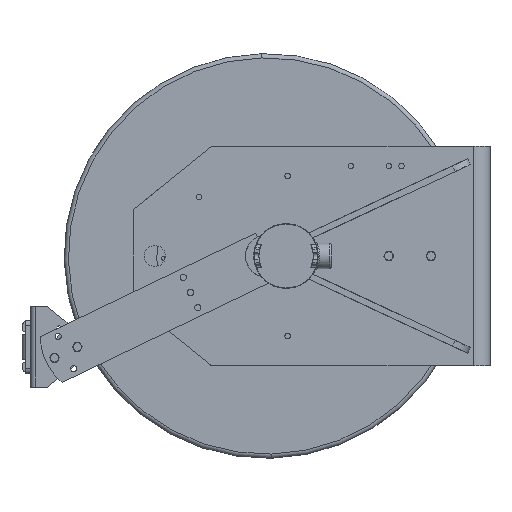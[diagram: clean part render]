
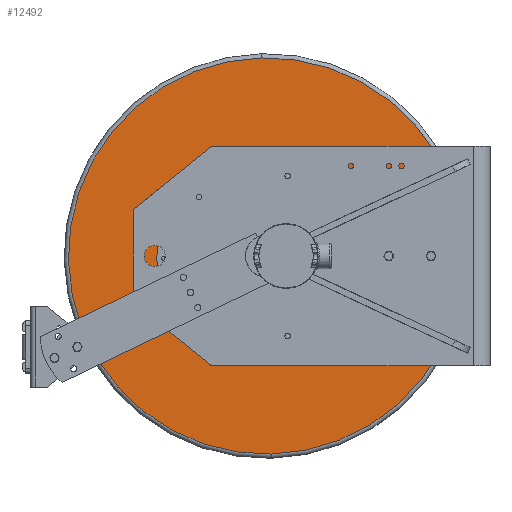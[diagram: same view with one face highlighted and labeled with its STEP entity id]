
A CAD part, left-side view. The second image highlights one B-rep face of the part: STEP entity #12492.
In plain terms, the highlighted planar face has unit normal (-1, 0, 0) as drawn and (0, 0, -1) by its records, which use the part's own axes.
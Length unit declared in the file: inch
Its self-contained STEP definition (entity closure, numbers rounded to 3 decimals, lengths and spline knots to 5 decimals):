
#212 = EDGE_CURVE ( 'NONE', #6765, #1109, #10280, .T. ) ;
#629 = CIRCLE ( 'NONE', #11423, 6.51 ) ;
#1109 = VERTEX_POINT ( 'NONE', #2480 ) ;
#1264 = ORIENTED_EDGE ( 'NONE', *, *, #15155, .F. ) ;
#1458 = AXIS2_PLACEMENT_3D ( 'NONE', #8322, #22707, #10398 ) ;
#1703 = PLANE ( 'NONE',  #3652 ) ;
#2298 = FACE_OUTER_BOUND ( 'NONE', #15855, .T. ) ;
#2480 = CARTESIAN_POINT ( 'NONE',  ( -11.75, 0., 3. ) ) ;
#3652 = AXIS2_PLACEMENT_3D ( 'NONE', #16054, #20159, #7859 ) ;
#4203 = EDGE_CURVE ( 'NONE', #1109, #6765, #25940, .T. ) ;
#4646 = CARTESIAN_POINT ( 'NONE',  ( -6.51, 0., 3. ) ) ;
#5282 = DIRECTION ( 'NONE',  ( 0., 0., -1. ) ) ;
#6750 = CARTESIAN_POINT ( 'NONE',  ( 11.75, 0., 3. ) ) ;
#6765 = VERTEX_POINT ( 'NONE', #6750 ) ;
#7157 = EDGE_LOOP ( 'NONE', ( #1264, #23613 ) ) ;
#7718 = AXIS2_PLACEMENT_3D ( 'NONE', #11300, #25708, #13361 ) ;
#7859 = DIRECTION ( 'NONE',  ( 1., 0., 0. ) ) ;
#8322 = CARTESIAN_POINT ( 'NONE',  ( 0., 0., 3. ) ) ;
#10280 = CIRCLE ( 'NONE', #7718, 11.75 ) ;
#10398 = DIRECTION ( 'NONE',  ( 1., 0., 0. ) ) ;
#11269 = CARTESIAN_POINT ( 'NONE',  ( 0., 0., 3. ) ) ;
#11300 = CARTESIAN_POINT ( 'NONE',  ( 0., 0., 3. ) ) ;
#11423 = AXIS2_PLACEMENT_3D ( 'NONE', #17567, #5282, #19645 ) ;
#11863 = EDGE_CURVE ( 'NONE', #25961, #22489, #14081, .T. ) ;
#12492 = ADVANCED_FACE ( 'NONE', ( #24171, #2298 ), #1703, .F. ) ;
#13333 = DIRECTION ( 'NONE',  ( 1., 0., 0. ) ) ;
#13361 = DIRECTION ( 'NONE',  ( 1., 0., 0. ) ) ;
#14081 = CIRCLE ( 'NONE', #18913, 6.51 ) ;
#15155 = EDGE_CURVE ( 'NONE', #22489, #25961, #629, .T. ) ;
#15855 = EDGE_LOOP ( 'NONE', ( #18271, #20382 ) ) ;
#16054 = CARTESIAN_POINT ( 'NONE',  ( 0., 0., 3. ) ) ;
#17567 = CARTESIAN_POINT ( 'NONE',  ( 0., 0., 3. ) ) ;
#18271 = ORIENTED_EDGE ( 'NONE', *, *, #212, .T. ) ;
#18913 = AXIS2_PLACEMENT_3D ( 'NONE', #11269, #25677, #13333 ) ;
#19028 = CARTESIAN_POINT ( 'NONE',  ( 6.51, 0., 3. ) ) ;
#19645 = DIRECTION ( 'NONE',  ( 1., 0., 0. ) ) ;
#20159 = DIRECTION ( 'NONE',  ( 0., 0., 1. ) ) ;
#20382 = ORIENTED_EDGE ( 'NONE', *, *, #4203, .T. ) ;
#22489 = VERTEX_POINT ( 'NONE', #19028 ) ;
#22707 = DIRECTION ( 'NONE',  ( 0., 0., -1. ) ) ;
#23613 = ORIENTED_EDGE ( 'NONE', *, *, #11863, .F. ) ;
#24171 = FACE_BOUND ( 'NONE', #7157, .T. ) ;
#25677 = DIRECTION ( 'NONE',  ( 0., 0., -1. ) ) ;
#25708 = DIRECTION ( 'NONE',  ( 0., 0., -1. ) ) ;
#25940 = CIRCLE ( 'NONE', #1458, 11.75 ) ;
#25961 = VERTEX_POINT ( 'NONE', #4646 ) ;
